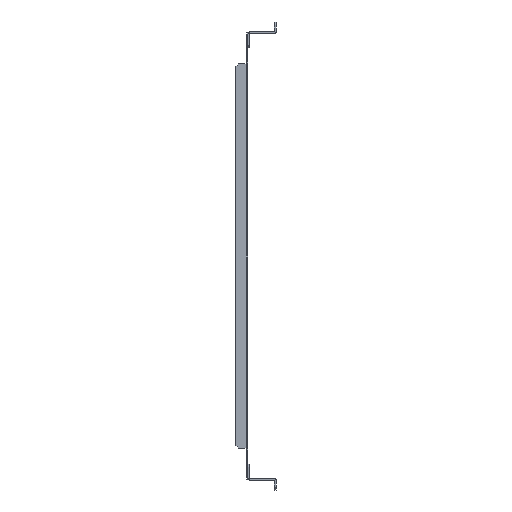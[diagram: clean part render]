
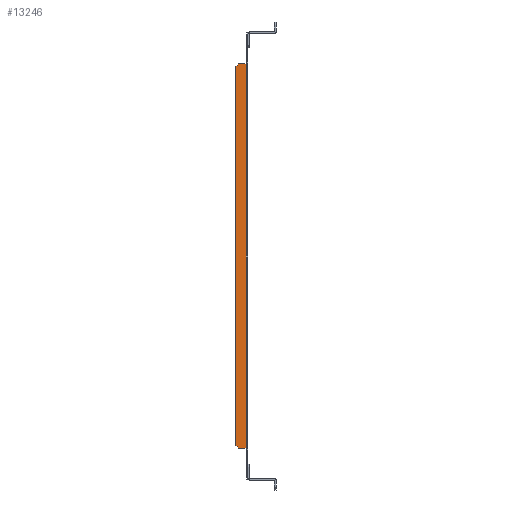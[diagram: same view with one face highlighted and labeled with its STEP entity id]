
A CAD part, left-side view. The second image highlights one B-rep face of the part: STEP entity #13246.
In plain terms, the highlighted planar face has unit normal (-1, 0, 0).
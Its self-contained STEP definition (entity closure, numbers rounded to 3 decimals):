
#11566=CARTESIAN_POINT(' ',(-199.5,9.,214.5));
#11567=VERTEX_POINT(' ',#11566);
#11581=CARTESIAN_POINT(' ',(-199.5,9.,214.5));
#11586=DIRECTION(' ',(0.,-1.,0.));
#11591=VECTOR(' ',#11586,1.);
#11596=LINE('',#11581,#11591);
#11601=CARTESIAN_POINT(' ',(-199.5,0.6,214.5));
#11602=VERTEX_POINT(' ',#11601);
#11606=EDGE_CURVE(' ',#11567,#11602,#11596,.T.);
#11741=CARTESIAN_POINT(' ',(-199.5,0.6,214.5));
#11746=DIRECTION(' ',(0.,0.,-1.));
#11751=VECTOR(' ',#11746,1.);
#11756=LINE('',#11741,#11751);
#11761=CARTESIAN_POINT(' ',(-199.5,0.6,-214.5));
#11762=VERTEX_POINT(' ',#11761);
#11766=EDGE_CURVE(' ',#11602,#11762,#11756,.T.);
#11861=CARTESIAN_POINT(' ',(-199.5,9.,-214.5));
#11866=DIRECTION(' ',(0.,-1.,0.));
#11871=VECTOR(' ',#11866,1.);
#11876=LINE('',#11861,#11871);
#11881=CARTESIAN_POINT(' ',(-199.5,9.,-214.5));
#11882=VERTEX_POINT(' ',#11881);
#11886=EDGE_CURVE(' ',#11882,#11762,#11876,.T.);
#13036=CARTESIAN_POINT(' ',(-199.5,9.,214.5));
#13041=DIRECTION(' ',(0.,0.707,-0.707));
#13046=VECTOR(' ',#13041,1.);
#13051=LINE('',#13036,#13046);
#13056=CARTESIAN_POINT(' ',(-199.5,12.,211.5));
#13057=VERTEX_POINT(' ',#13056);
#13061=EDGE_CURVE(' ',#11567,#13057,#13051,.T.);
#13126=DIRECTION(' ',(-1.,-0.,0.));
#13131=CARTESIAN_POINT(' ',(-199.5,0.6,214.5));
#13136=DIRECTION(' ',(0.,1.,0.));
#13141=AXIS2_PLACEMENT_3D(' ',#13131,#13126,#13136);
#13146=PLANE('NONE',#13141);
#13151=CARTESIAN_POINT(' ',(-199.5,12.,211.5));
#13156=DIRECTION(' ',(0.,0.,-1.));
#13161=VECTOR(' ',#13156,1.);
#13166=LINE('',#13151,#13161);
#13171=CARTESIAN_POINT(' ',(-199.5,12.,-211.5));
#13172=VERTEX_POINT(' ',#13171);
#13176=EDGE_CURVE(' ',#13057,#13172,#13166,.T.);
#13181=ORIENTED_EDGE(' ',*,*,#13176,.T.);
#13186=CARTESIAN_POINT(' ',(-199.5,12.,-211.5));
#13191=DIRECTION(' ',(0.,-0.707,-0.707));
#13196=VECTOR(' ',#13191,1.);
#13201=LINE('',#13186,#13196);
#13206=EDGE_CURVE(' ',#13172,#11882,#13201,.T.);
#13211=ORIENTED_EDGE(' ',*,*,#13206,.T.);
#13216=ORIENTED_EDGE(' ',*,*,#11886,.T.);
#13221=ORIENTED_EDGE(' ',*,*,#11766,.F.);
#13226=ORIENTED_EDGE(' ',*,*,#11606,.F.);
#13231=ORIENTED_EDGE(' ',*,*,#13061,.T.);
#13236=EDGE_LOOP(' ',(#13181,#13211,#13216,#13221,#13226,#13231));
#13241=FACE_OUTER_BOUND(' ',#13236,.T.);
#13246=ADVANCED_FACE('NONE',(#13241),#13146,.T.);
